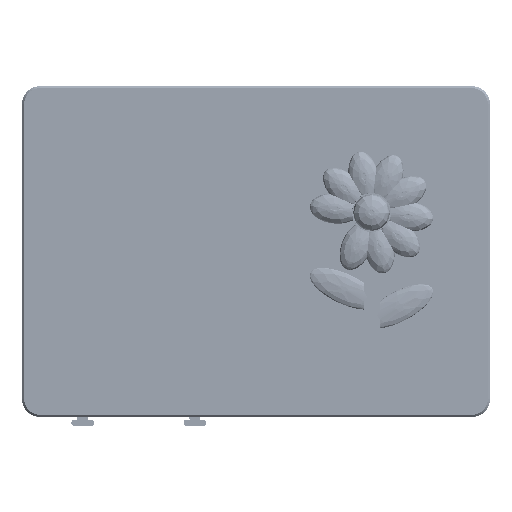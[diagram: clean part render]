
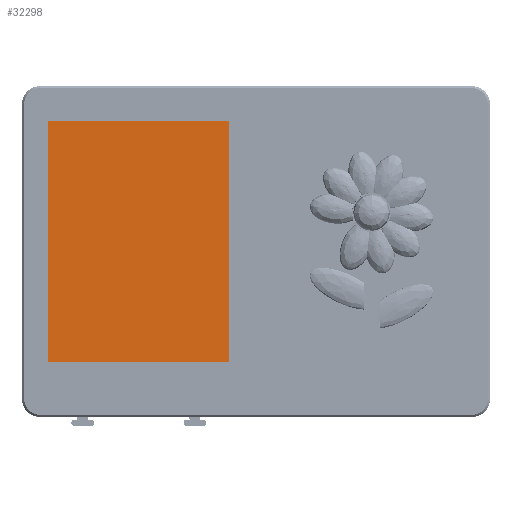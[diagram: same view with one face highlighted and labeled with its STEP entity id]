
A CAD part, top view. The second image highlights one B-rep face of the part: STEP entity #32298.
In plain terms, the highlighted planar face has unit normal (0, 0, 1).
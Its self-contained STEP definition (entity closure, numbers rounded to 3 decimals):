
#32129 = PLANE('',#32130);
#32130 = AXIS2_PLACEMENT_3D('',#32131,#32132,#32133);
#32131 = CARTESIAN_POINT('',(-35.1,22.1,10.9));
#32132 = DIRECTION('',(0.,-1.,0.));
#32133 = DIRECTION('',(1.,0.,0.));
#32157 = PLANE('',#32158);
#32158 = AXIS2_PLACEMENT_3D('',#32159,#32160,#32161);
#32159 = CARTESIAN_POINT('',(-35.1,-18.7,10.9));
#32160 = DIRECTION('',(1.,0.,0.));
#32161 = DIRECTION('',(0.,1.,0.));
#32185 = PLANE('',#32186);
#32186 = AXIS2_PLACEMENT_3D('',#32187,#32188,#32189);
#32187 = CARTESIAN_POINT('',(-4.5,-18.7,10.9));
#32188 = DIRECTION('',(0.,1.,0.));
#32189 = DIRECTION('',(-1.,0.,0.));
#32211 = PLANE('',#32212);
#32212 = AXIS2_PLACEMENT_3D('',#32213,#32214,#32215);
#32213 = CARTESIAN_POINT('',(-4.5,22.1,10.9));
#32214 = DIRECTION('',(-1.,0.,0.));
#32215 = DIRECTION('',(0.,-1.,0.));
#32226 = EDGE_CURVE('',#32227,#32229,#32231,.T.);
#32227 = VERTEX_POINT('',#32228);
#32228 = CARTESIAN_POINT('',(-35.1,22.1,10.95));
#32229 = VERTEX_POINT('',#32230);
#32230 = CARTESIAN_POINT('',(-4.5,22.1,10.95));
#32231 = SURFACE_CURVE('',#32232,(#32236,#32243),.PCURVE_S1.);
#32232 = LINE('',#32233,#32234);
#32233 = CARTESIAN_POINT('',(-35.1,22.1,10.95));
#32234 = VECTOR('',#32235,1.);
#32235 = DIRECTION('',(1.,0.,0.));
#32236 = PCURVE('',#32129,#32237);
#32237 = DEFINITIONAL_REPRESENTATION('',(#32238),#32242);
#32238 = LINE('',#32239,#32240);
#32239 = CARTESIAN_POINT('',(0.,0.05));
#32240 = VECTOR('',#32241,1.);
#32241 = DIRECTION('',(1.,0.));
#32242 = ( GEOMETRIC_REPRESENTATION_CONTEXT(2) 
PARAMETRIC_REPRESENTATION_CONTEXT() REPRESENTATION_CONTEXT('2D SPACE',''
  ) );
#32243 = PCURVE('',#32244,#32249);
#32244 = PLANE('',#32245);
#32245 = AXIS2_PLACEMENT_3D('',#32246,#32247,#32248);
#32246 = CARTESIAN_POINT('',(-19.8,1.7,10.95));
#32247 = DIRECTION('',(0.,0.,1.));
#32248 = DIRECTION('',(1.,0.,0.));
#32249 = DEFINITIONAL_REPRESENTATION('',(#32250),#32254);
#32250 = LINE('',#32251,#32252);
#32251 = CARTESIAN_POINT('',(-15.3,20.4));
#32252 = VECTOR('',#32253,1.);
#32253 = DIRECTION('',(1.,0.));
#32254 = ( GEOMETRIC_REPRESENTATION_CONTEXT(2) 
PARAMETRIC_REPRESENTATION_CONTEXT() REPRESENTATION_CONTEXT('2D SPACE',''
  ) );
#32298 = ADVANCED_FACE('',(#32299),#32244,.T.);
#32299 = FACE_BOUND('',#32300,.F.);
#32300 = EDGE_LOOP('',(#32301,#32302,#32325,#32348));
#32301 = ORIENTED_EDGE('',*,*,#32226,.T.);
#32302 = ORIENTED_EDGE('',*,*,#32303,.F.);
#32303 = EDGE_CURVE('',#32304,#32229,#32306,.T.);
#32304 = VERTEX_POINT('',#32305);
#32305 = CARTESIAN_POINT('',(-4.5,-18.7,10.95));
#32306 = SURFACE_CURVE('',#32307,(#32311,#32318),.PCURVE_S1.);
#32307 = LINE('',#32308,#32309);
#32308 = CARTESIAN_POINT('',(-4.5,-18.7,10.95));
#32309 = VECTOR('',#32310,1.);
#32310 = DIRECTION('',(0.,1.,0.));
#32311 = PCURVE('',#32244,#32312);
#32312 = DEFINITIONAL_REPRESENTATION('',(#32313),#32317);
#32313 = LINE('',#32314,#32315);
#32314 = CARTESIAN_POINT('',(15.3,-20.4));
#32315 = VECTOR('',#32316,1.);
#32316 = DIRECTION('',(0.,1.));
#32317 = ( GEOMETRIC_REPRESENTATION_CONTEXT(2) 
PARAMETRIC_REPRESENTATION_CONTEXT() REPRESENTATION_CONTEXT('2D SPACE',''
  ) );
#32318 = PCURVE('',#32211,#32319);
#32319 = DEFINITIONAL_REPRESENTATION('',(#32320),#32324);
#32320 = LINE('',#32321,#32322);
#32321 = CARTESIAN_POINT('',(40.8,0.05));
#32322 = VECTOR('',#32323,1.);
#32323 = DIRECTION('',(-1.,0.));
#32324 = ( GEOMETRIC_REPRESENTATION_CONTEXT(2) 
PARAMETRIC_REPRESENTATION_CONTEXT() REPRESENTATION_CONTEXT('2D SPACE',''
  ) );
#32325 = ORIENTED_EDGE('',*,*,#32326,.F.);
#32326 = EDGE_CURVE('',#32327,#32304,#32329,.T.);
#32327 = VERTEX_POINT('',#32328);
#32328 = CARTESIAN_POINT('',(-35.1,-18.7,10.95));
#32329 = SURFACE_CURVE('',#32330,(#32334,#32341),.PCURVE_S1.);
#32330 = LINE('',#32331,#32332);
#32331 = CARTESIAN_POINT('',(-35.1,-18.7,10.95));
#32332 = VECTOR('',#32333,1.);
#32333 = DIRECTION('',(1.,0.,0.));
#32334 = PCURVE('',#32244,#32335);
#32335 = DEFINITIONAL_REPRESENTATION('',(#32336),#32340);
#32336 = LINE('',#32337,#32338);
#32337 = CARTESIAN_POINT('',(-15.3,-20.4));
#32338 = VECTOR('',#32339,1.);
#32339 = DIRECTION('',(1.,0.));
#32340 = ( GEOMETRIC_REPRESENTATION_CONTEXT(2) 
PARAMETRIC_REPRESENTATION_CONTEXT() REPRESENTATION_CONTEXT('2D SPACE',''
  ) );
#32341 = PCURVE('',#32185,#32342);
#32342 = DEFINITIONAL_REPRESENTATION('',(#32343),#32347);
#32343 = LINE('',#32344,#32345);
#32344 = CARTESIAN_POINT('',(30.6,0.05));
#32345 = VECTOR('',#32346,1.);
#32346 = DIRECTION('',(-1.,0.));
#32347 = ( GEOMETRIC_REPRESENTATION_CONTEXT(2) 
PARAMETRIC_REPRESENTATION_CONTEXT() REPRESENTATION_CONTEXT('2D SPACE',''
  ) );
#32348 = ORIENTED_EDGE('',*,*,#32349,.T.);
#32349 = EDGE_CURVE('',#32327,#32227,#32350,.T.);
#32350 = SURFACE_CURVE('',#32351,(#32355,#32362),.PCURVE_S1.);
#32351 = LINE('',#32352,#32353);
#32352 = CARTESIAN_POINT('',(-35.1,-18.7,10.95));
#32353 = VECTOR('',#32354,1.);
#32354 = DIRECTION('',(0.,1.,0.));
#32355 = PCURVE('',#32244,#32356);
#32356 = DEFINITIONAL_REPRESENTATION('',(#32357),#32361);
#32357 = LINE('',#32358,#32359);
#32358 = CARTESIAN_POINT('',(-15.3,-20.4));
#32359 = VECTOR('',#32360,1.);
#32360 = DIRECTION('',(0.,1.));
#32361 = ( GEOMETRIC_REPRESENTATION_CONTEXT(2) 
PARAMETRIC_REPRESENTATION_CONTEXT() REPRESENTATION_CONTEXT('2D SPACE',''
  ) );
#32362 = PCURVE('',#32157,#32363);
#32363 = DEFINITIONAL_REPRESENTATION('',(#32364),#32368);
#32364 = LINE('',#32365,#32366);
#32365 = CARTESIAN_POINT('',(0.,0.05));
#32366 = VECTOR('',#32367,1.);
#32367 = DIRECTION('',(1.,0.));
#32368 = ( GEOMETRIC_REPRESENTATION_CONTEXT(2) 
PARAMETRIC_REPRESENTATION_CONTEXT() REPRESENTATION_CONTEXT('2D SPACE',''
  ) );
